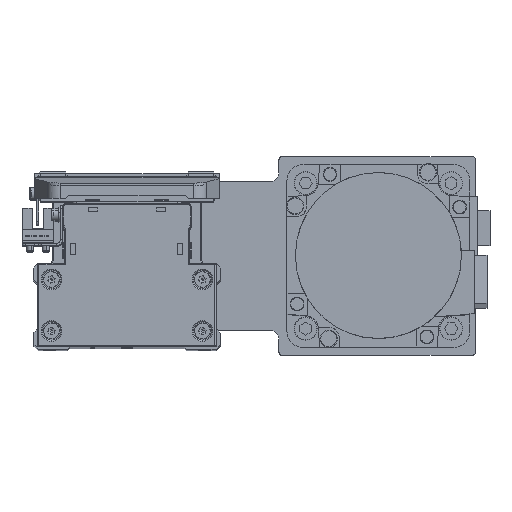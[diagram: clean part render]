
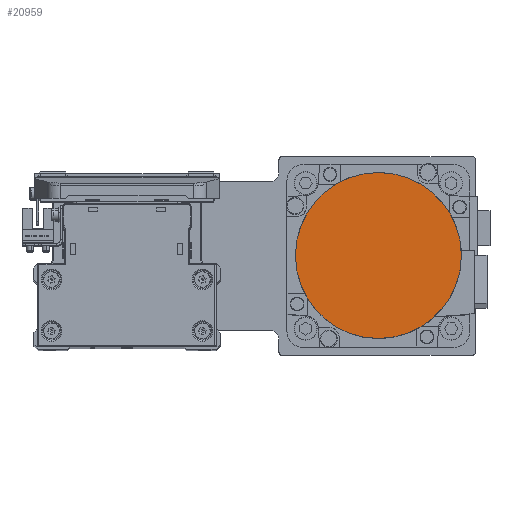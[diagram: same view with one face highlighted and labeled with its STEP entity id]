
A CAD part, top view. The second image highlights one B-rep face of the part: STEP entity #20959.
In plain terms, the highlighted planar face has unit normal (0, 0, 1) as drawn and (0, 0, -1) by its records, which use the part's own axes.
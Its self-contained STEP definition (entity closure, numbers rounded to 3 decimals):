
#579 = DIRECTION ( 'NONE',  ( 1., 0., 0. ) ) ;
#808 = VERTEX_POINT ( 'NONE', #2322 ) ;
#2322 = CARTESIAN_POINT ( 'NONE',  ( 0., -36.3, -122.2 ) ) ;
#2525 = AXIS2_PLACEMENT_3D ( 'NONE', #15599, #27663, #579 ) ;
#2703 = DIRECTION ( 'NONE',  ( 0., -1., 0. ) ) ;
#3538 = PLANE ( 'NONE',  #2525 ) ;
#3784 = CIRCLE ( 'NONE', #8822, 36.3 ) ;
#4776 = CIRCLE ( 'NONE', #9839, 36.3 ) ;
#8795 = CARTESIAN_POINT ( 'NONE',  ( 0., 36.3, -122.2 ) ) ;
#8822 = AXIS2_PLACEMENT_3D ( 'NONE', #17710, #29788, #2703 ) ;
#9839 = AXIS2_PLACEMENT_3D ( 'NONE', #37987, #10912, #22940 ) ;
#10865 = EDGE_CURVE ( 'NONE', #20827, #808, #4776, .T. ) ;
#10912 = DIRECTION ( 'NONE',  ( 0., 0., 1. ) ) ;
#12020 = EDGE_LOOP ( 'NONE', ( #24052, #22909 ) ) ;
#15599 = CARTESIAN_POINT ( 'NONE',  ( 0., 0., -122.2 ) ) ;
#17710 = CARTESIAN_POINT ( 'NONE',  ( 0., 0., -122.2 ) ) ;
#20827 = VERTEX_POINT ( 'NONE', #8795 ) ;
#20959 = ADVANCED_FACE ( 'NONE', ( #24788 ), #3538, .F. ) ;
#22909 = ORIENTED_EDGE ( 'NONE', *, *, #34948, .F. ) ;
#22940 = DIRECTION ( 'NONE',  ( 0., 1., 0. ) ) ;
#24052 = ORIENTED_EDGE ( 'NONE', *, *, #10865, .F. ) ;
#24788 = FACE_OUTER_BOUND ( 'NONE', #12020, .T. ) ;
#27663 = DIRECTION ( 'NONE',  ( 0., 0., 1. ) ) ;
#29788 = DIRECTION ( 'NONE',  ( 0., 0., 1. ) ) ;
#34948 = EDGE_CURVE ( 'NONE', #808, #20827, #3784, .T. ) ;
#37987 = CARTESIAN_POINT ( 'NONE',  ( 0., 0., -122.2 ) ) ;
